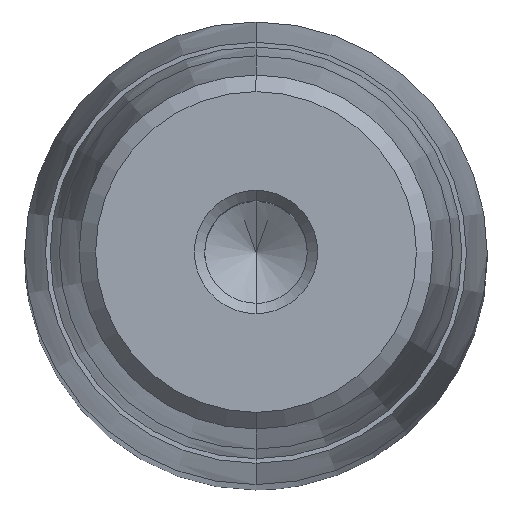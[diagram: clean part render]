
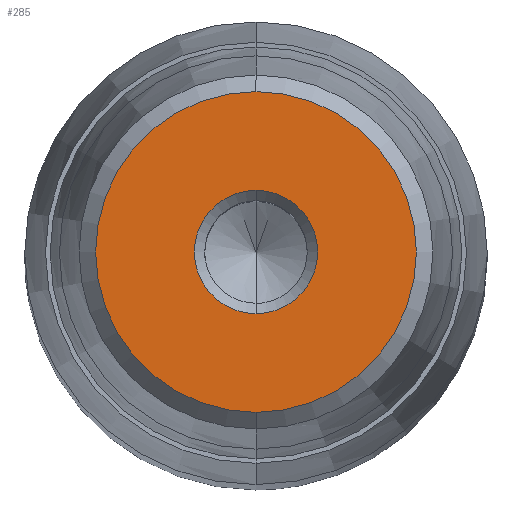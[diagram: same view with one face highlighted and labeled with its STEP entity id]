
A CAD part, top view. The second image highlights one B-rep face of the part: STEP entity #285.
In plain terms, the highlighted planar face has unit normal (0, 0, 1).
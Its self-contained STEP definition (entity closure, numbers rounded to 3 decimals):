
#164=CARTESIAN_POINT('Axis2P3D Location',(0.,0.,48.)) ;
#168=CARTESIAN_POINT('Vertex',(4.,0.,48.)) ;
#170=CARTESIAN_POINT('Vertex',(0.,-4.,48.)) ;
#173=CARTESIAN_POINT('Axis2P3D Location',(0.,0.,48.)) ;
#177=CARTESIAN_POINT('Vertex',(0.,4.,48.)) ;
#228=CARTESIAN_POINT('Axis2P3D Location',(0.,4.,48.)) ;
#233=CARTESIAN_POINT('Axis2P3D Location',(0.,0.,48.)) ;
#237=CARTESIAN_POINT('Vertex',(0.,10.4,48.)) ;
#239=CARTESIAN_POINT('Vertex',(10.4,0.,48.)) ;
#242=CARTESIAN_POINT('Axis2P3D Location',(0.,0.,48.)) ;
#246=CARTESIAN_POINT('Vertex',(-10.4,0.,48.)) ;
#249=CARTESIAN_POINT('Axis2P3D Location',(0.,0.,48.)) ;
#253=CARTESIAN_POINT('Vertex',(0.,-10.4,48.)) ;
#256=CARTESIAN_POINT('Axis2P3D Location',(0.,0.,48.)) ;
#267=CARTESIAN_POINT('Axis2P3D Location',(0.,0.,48.)) ;
#271=CARTESIAN_POINT('Vertex',(-4.,0.,48.)) ;
#274=CARTESIAN_POINT('Axis2P3D Location',(0.,0.,48.)) ;
#165=DIRECTION('Axis2P3D Direction',(-0.,0.,1.)) ;
#174=DIRECTION('Axis2P3D Direction',(-0.,0.,1.)) ;
#229=DIRECTION('Axis2P3D Direction',(0.,0.,-1.)) ;
#230=DIRECTION('Axis2P3D XDirection',(0.,1.,0.)) ;
#234=DIRECTION('Axis2P3D Direction',(0.,0.,-1.)) ;
#243=DIRECTION('Axis2P3D Direction',(0.,0.,-1.)) ;
#250=DIRECTION('Axis2P3D Direction',(0.,0.,-1.)) ;
#257=DIRECTION('Axis2P3D Direction',(0.,0.,-1.)) ;
#268=DIRECTION('Axis2P3D Direction',(0.,0.,-1.)) ;
#275=DIRECTION('Axis2P3D Direction',(0.,0.,-1.)) ;
#166=AXIS2_PLACEMENT_3D('Circle Axis2P3D',#164,#165,$) ;
#175=AXIS2_PLACEMENT_3D('Circle Axis2P3D',#173,#174,$) ;
#231=AXIS2_PLACEMENT_3D('Plane Axis2P3D',#228,#229,#230) ;
#235=AXIS2_PLACEMENT_3D('Circle Axis2P3D',#233,#234,$) ;
#244=AXIS2_PLACEMENT_3D('Circle Axis2P3D',#242,#243,$) ;
#251=AXIS2_PLACEMENT_3D('Circle Axis2P3D',#249,#250,$) ;
#258=AXIS2_PLACEMENT_3D('Circle Axis2P3D',#256,#257,$) ;
#269=AXIS2_PLACEMENT_3D('Circle Axis2P3D',#267,#268,$) ;
#276=AXIS2_PLACEMENT_3D('Circle Axis2P3D',#274,#275,$) ;
#262=ORIENTED_EDGE('',*,*,#241,.F.) ;
#263=ORIENTED_EDGE('',*,*,#248,.F.) ;
#264=ORIENTED_EDGE('',*,*,#255,.F.) ;
#265=ORIENTED_EDGE('',*,*,#260,.F.) ;
#280=ORIENTED_EDGE('',*,*,#172,.T.) ;
#281=ORIENTED_EDGE('',*,*,#273,.T.) ;
#282=ORIENTED_EDGE('',*,*,#278,.T.) ;
#283=ORIENTED_EDGE('',*,*,#179,.T.) ;
#284=FACE_BOUND('',#279,.T.) ;
#285=ADVANCED_FACE('722-30x224x257',(#266,#284),#232,.F.) ;
#167=CIRCLE('generated circle',#166,4.) ;
#176=CIRCLE('generated circle',#175,4.) ;
#236=CIRCLE('generated circle',#235,10.4) ;
#245=CIRCLE('generated circle',#244,10.4) ;
#252=CIRCLE('generated circle',#251,10.4) ;
#259=CIRCLE('generated circle',#258,10.4) ;
#270=CIRCLE('generated circle',#269,4.) ;
#277=CIRCLE('generated circle',#276,4.) ;
#172=EDGE_CURVE('',#169,#171,#167,.F.) ;
#179=EDGE_CURVE('',#178,#169,#176,.F.) ;
#241=EDGE_CURVE('',#238,#240,#236,.T.) ;
#248=EDGE_CURVE('',#247,#238,#245,.T.) ;
#255=EDGE_CURVE('',#254,#247,#252,.T.) ;
#260=EDGE_CURVE('',#240,#254,#259,.T.) ;
#273=EDGE_CURVE('',#171,#272,#270,.T.) ;
#278=EDGE_CURVE('',#272,#178,#277,.T.) ;
#261=EDGE_LOOP('',(#262,#263,#264,#265)) ;
#279=EDGE_LOOP('',(#280,#281,#282,#283)) ;
#266=FACE_OUTER_BOUND('',#261,.T.) ;
#232=PLANE('Plane',#231) ;
#169=VERTEX_POINT('',#168) ;
#171=VERTEX_POINT('',#170) ;
#178=VERTEX_POINT('',#177) ;
#238=VERTEX_POINT('',#237) ;
#240=VERTEX_POINT('',#239) ;
#247=VERTEX_POINT('',#246) ;
#254=VERTEX_POINT('',#253) ;
#272=VERTEX_POINT('',#271) ;
